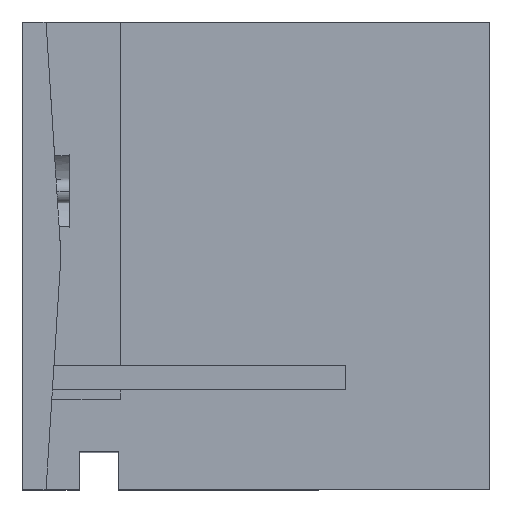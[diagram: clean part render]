
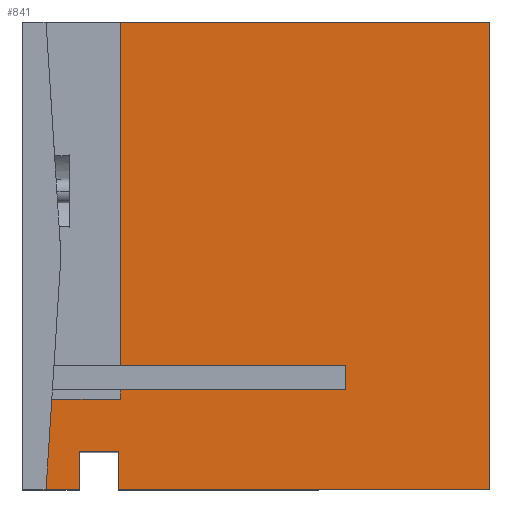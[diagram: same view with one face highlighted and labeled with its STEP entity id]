
A CAD part, top view. The second image highlights one B-rep face of the part: STEP entity #841.
In plain terms, the highlighted planar face has unit normal (0, 0, 1).
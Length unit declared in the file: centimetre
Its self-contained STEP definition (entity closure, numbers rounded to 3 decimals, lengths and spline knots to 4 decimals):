
#6 = CARTESIAN_POINT ( 'NONE',  ( 82.5662, 500., 1000. ) ) ;
#7 = LINE ( 'NONE', #366, #569 ) ;
#36 = VECTOR ( 'NONE', #1198, 100. ) ;
#41 = VERTEX_POINT ( 'NONE', #1104 ) ;
#47 = VERTEX_POINT ( 'NONE', #316 ) ;
#60 = VERTEX_POINT ( 'NONE', #231 ) ;
#75 = CARTESIAN_POINT ( 'NONE',  ( 1000., 0., 1000. ) ) ;
#105 = CARTESIAN_POINT ( 'NONE',  ( 209.4679, 192.1284, 1000. ) ) ;
#109 = EDGE_CURVE ( 'NONE', #587, #1119, #570, .T. ) ;
#157 = VERTEX_POINT ( 'NONE', #1110 ) ;
#202 = DIRECTION ( 'NONE',  ( 0., -1., 0. ) ) ;
#204 = EDGE_CURVE ( 'NONE', #60, #41, #348, .T. ) ;
#222 = VECTOR ( 'NONE', #824, 100. ) ;
#224 = VECTOR ( 'NONE', #873, 100. ) ;
#231 = CARTESIAN_POINT ( 'NONE',  ( 691.8758, 265.3677, 1000. ) ) ;
#242 = CARTESIAN_POINT ( 'NONE',  ( 205.8682, 0., 1000. ) ) ;
#250 = CARTESIAN_POINT ( 'NONE',  ( 0., 0., 1000. ) ) ;
#259 = DIRECTION ( 'NONE',  ( 1., 0., 0. ) ) ;
#295 = CARTESIAN_POINT ( 'NONE',  ( 691.8758, 212.594, 1000. ) ) ;
#303 = VECTOR ( 'NONE', #1249, 100. ) ;
#316 = CARTESIAN_POINT ( 'NONE',  ( 121.5018, 79.9339, 1000. ) ) ;
#321 = VECTOR ( 'NONE', #388, 100. ) ;
#348 = LINE ( 'NONE', #801, #303 ) ;
#366 = CARTESIAN_POINT ( 'NONE',  ( 0., 0., 1000. ) ) ;
#369 = LINE ( 'NONE', #1040, #222 ) ;
#377 = LINE ( 'NONE', #730, #723 ) ;
#378 = ORIENTED_EDGE ( 'NONE', *, *, #1208, .F. ) ;
#388 = DIRECTION ( 'NONE',  ( 0., 1., 0. ) ) ;
#402 = ORIENTED_EDGE ( 'NONE', *, *, #887, .T. ) ;
#414 = LINE ( 'NONE', #295, #1138 ) ;
#457 = DIRECTION ( 'NONE',  ( 1., 0., 0. ) ) ;
#465 = PLANE ( 'NONE',  #1355 ) ;
#507 = VECTOR ( 'NONE', #1079, 100. ) ;
#508 = CARTESIAN_POINT ( 'NONE',  ( 0., 192.1284, 1000. ) ) ;
#509 = ORIENTED_EDGE ( 'NONE', *, *, #1140, .T. ) ;
#517 = LINE ( 'NONE', #1069, #529 ) ;
#522 = DIRECTION ( 'NONE',  ( -1., 0., 0. ) ) ;
#529 = VECTOR ( 'NONE', #522, 100. ) ;
#563 = VERTEX_POINT ( 'NONE', #1078 ) ;
#569 = VECTOR ( 'NONE', #457, 100. ) ;
#570 = LINE ( 'NONE', #794, #627 ) ;
#580 = CARTESIAN_POINT ( 'NONE',  ( 121.5018, 0., 1000. ) ) ;
#587 = VERTEX_POINT ( 'NONE', #105 ) ;
#601 = ORIENTED_EDGE ( 'NONE', *, *, #852, .T. ) ;
#627 = VECTOR ( 'NONE', #1347, 100. ) ;
#633 = CARTESIAN_POINT ( 'NONE',  ( 121.5018, 0., 1000. ) ) ;
#646 = ORIENTED_EDGE ( 'NONE', *, *, #925, .F. ) ;
#668 = ORIENTED_EDGE ( 'NONE', *, *, #1283, .F. ) ;
#677 = EDGE_CURVE ( 'NONE', #844, #1385, #898, .T. ) ;
#680 = ORIENTED_EDGE ( 'NONE', *, *, #1260, .F. ) ;
#699 = ORIENTED_EDGE ( 'NONE', *, *, #204, .F. ) ;
#708 = CARTESIAN_POINT ( 'NONE',  ( 209.4679, 212.594, 1000. ) ) ;
#723 = VECTOR ( 'NONE', #1181, 100. ) ;
#725 = ORIENTED_EDGE ( 'NONE', *, *, #1270, .T. ) ;
#730 = CARTESIAN_POINT ( 'NONE',  ( 1000., 1000., 1000. ) ) ;
#747 = LINE ( 'NONE', #508, #36 ) ;
#750 = VERTEX_POINT ( 'NONE', #242 ) ;
#752 = EDGE_LOOP ( 'NONE', ( #699, #1065, #402, #1374, #680, #1142, #509, #1278, #668, #378, #1185, #601, #725, #646 ) ) ;
#755 = VERTEX_POINT ( 'NONE', #580 ) ;
#766 = LINE ( 'NONE', #1352, #224 ) ;
#794 = CARTESIAN_POINT ( 'NONE',  ( 209.4679, 192.1284, 1000. ) ) ;
#801 = CARTESIAN_POINT ( 'NONE',  ( 691.8758, 265.3677, 1000. ) ) ;
#817 = EDGE_CURVE ( 'NONE', #750, #1237, #943, .T. ) ;
#824 = DIRECTION ( 'NONE',  ( -1., 0., 0. ) ) ;
#840 = VECTOR ( 'NONE', #1449, 100. ) ;
#841 = ADVANCED_FACE ( 'NONE', ( #937 ), #465, .T. ) ;
#843 = CARTESIAN_POINT ( 'NONE',  ( 62.9021, 192.1284, 1000. ) ) ;
#844 = VERTEX_POINT ( 'NONE', #1388 ) ;
#852 = EDGE_CURVE ( 'NONE', #1237, #157, #377, .T. ) ;
#861 = CARTESIAN_POINT ( 'NONE',  ( 209.4679, 1000., 1000. ) ) ;
#873 = DIRECTION ( 'NONE',  ( 0., 1., 0. ) ) ;
#887 = EDGE_CURVE ( 'NONE', #940, #1119, #369, .T. ) ;
#898 = LINE ( 'NONE', #6, #840 ) ;
#925 = EDGE_CURVE ( 'NONE', #41, #1263, #766, .T. ) ;
#937 = FACE_OUTER_BOUND ( 'NONE', #752, .T. ) ;
#940 = VERTEX_POINT ( 'NONE', #986 ) ;
#943 = LINE ( 'NONE', #1397, #1098 ) ;
#986 = CARTESIAN_POINT ( 'NONE',  ( 691.8758, 212.594, 1000. ) ) ;
#1040 = CARTESIAN_POINT ( 'NONE',  ( 691.8758, 212.594, 1000. ) ) ;
#1065 = ORIENTED_EDGE ( 'NONE', *, *, #1240, .F. ) ;
#1069 = CARTESIAN_POINT ( 'NONE',  ( 121.5018, 79.9339, 1000. ) ) ;
#1078 = CARTESIAN_POINT ( 'NONE',  ( 205.8682, 79.9339, 1000. ) ) ;
#1079 = DIRECTION ( 'NONE',  ( -1., 0., 0. ) ) ;
#1095 = LINE ( 'NONE', #633, #1330 ) ;
#1098 = VECTOR ( 'NONE', #259, 100. ) ;
#1104 = CARTESIAN_POINT ( 'NONE',  ( 209.4679, 265.3677, 1000. ) ) ;
#1110 = CARTESIAN_POINT ( 'NONE',  ( 1000., 1000., 1000. ) ) ;
#1119 = VERTEX_POINT ( 'NONE', #708 ) ;
#1138 = VECTOR ( 'NONE', #1301, 100. ) ;
#1140 = EDGE_CURVE ( 'NONE', #844, #755, #7, .T. ) ;
#1142 = ORIENTED_EDGE ( 'NONE', *, *, #677, .F. ) ;
#1181 = DIRECTION ( 'NONE',  ( 0., 1., 0. ) ) ;
#1185 = ORIENTED_EDGE ( 'NONE', *, *, #817, .T. ) ;
#1198 = DIRECTION ( 'NONE',  ( 1., 0., 0. ) ) ;
#1208 = EDGE_CURVE ( 'NONE', #750, #563, #1401, .T. ) ;
#1237 = VERTEX_POINT ( 'NONE', #75 ) ;
#1240 = EDGE_CURVE ( 'NONE', #940, #60, #414, .T. ) ;
#1249 = DIRECTION ( 'NONE',  ( -1., 0., 0. ) ) ;
#1260 = EDGE_CURVE ( 'NONE', #1385, #587, #747, .T. ) ;
#1263 = VERTEX_POINT ( 'NONE', #861 ) ;
#1270 = EDGE_CURVE ( 'NONE', #157, #1263, #1309, .T. ) ;
#1278 = ORIENTED_EDGE ( 'NONE', *, *, #1318, .F. ) ;
#1283 = EDGE_CURVE ( 'NONE', #563, #47, #517, .T. ) ;
#1291 = CARTESIAN_POINT ( 'NONE',  ( 205.8682, 0., 1000. ) ) ;
#1293 = DIRECTION ( 'NONE',  ( 1., 0., 0. ) ) ;
#1301 = DIRECTION ( 'NONE',  ( 0., 1., 0. ) ) ;
#1309 = LINE ( 'NONE', #1434, #507 ) ;
#1318 = EDGE_CURVE ( 'NONE', #47, #755, #1095, .T. ) ;
#1330 = VECTOR ( 'NONE', #202, 100. ) ;
#1347 = DIRECTION ( 'NONE',  ( 0., 1., 0. ) ) ;
#1352 = CARTESIAN_POINT ( 'NONE',  ( 209.4679, 192.1284, 1000. ) ) ;
#1355 = AXIS2_PLACEMENT_3D ( 'NONE', #250, #1403, #1293 ) ;
#1374 = ORIENTED_EDGE ( 'NONE', *, *, #109, .F. ) ;
#1385 = VERTEX_POINT ( 'NONE', #843 ) ;
#1388 = CARTESIAN_POINT ( 'NONE',  ( 50.6306, 0., 1000. ) ) ;
#1397 = CARTESIAN_POINT ( 'NONE',  ( 0., 0., 1000. ) ) ;
#1401 = LINE ( 'NONE', #1291, #321 ) ;
#1403 = DIRECTION ( 'NONE',  ( 0., 0., 1. ) ) ;
#1434 = CARTESIAN_POINT ( 'NONE',  ( 0., 1000., 1000. ) ) ;
#1449 = DIRECTION ( 'NONE',  ( 0.064, 0.998, 0. ) ) ;
